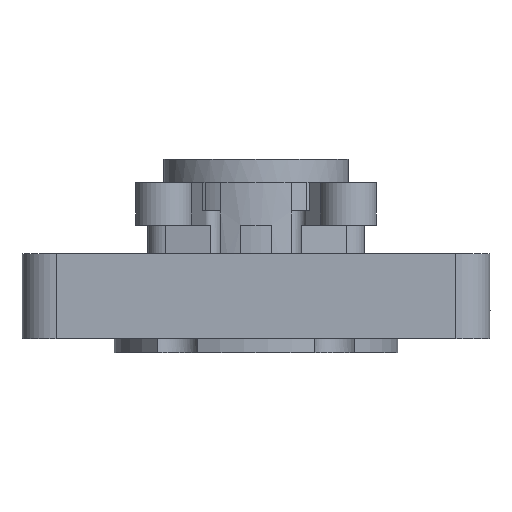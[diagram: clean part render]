
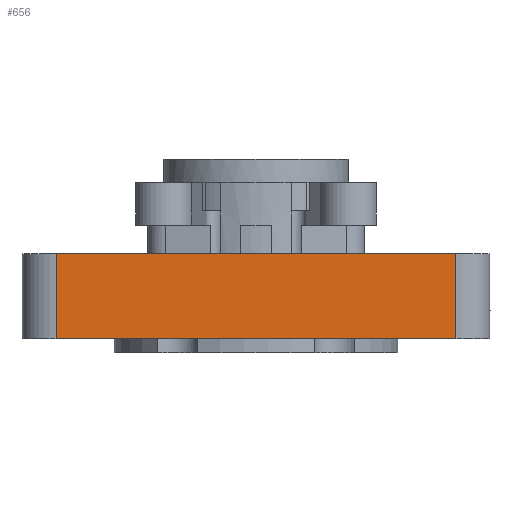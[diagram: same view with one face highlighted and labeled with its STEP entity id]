
A CAD part, front view. The second image highlights one B-rep face of the part: STEP entity #656.
In plain terms, the highlighted planar face has unit normal (0, -1, 0).
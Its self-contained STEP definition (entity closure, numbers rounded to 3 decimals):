
#656=ADVANCED_FACE('',(#991),#3473,.T.);
#991=FACE_OUTER_BOUND('',#1336,.F.);
#1336=EDGE_LOOP('',(#1801,#1802,#1803,#1804));
#1801=ORIENTED_EDGE('',*,*,#6546,.F.);
#1802=ORIENTED_EDGE('',*,*,#6792,.F.);
#1803=ORIENTED_EDGE('',*,*,#6549,.T.);
#1804=ORIENTED_EDGE('',*,*,#6791,.T.);
#3473=PLANE('',#8794);
#5646=LINE('',#11683,#6090);
#5649=LINE('',#11686,#6093);
#5735=LINE('',#11928,#6179);
#5736=LINE('',#11929,#6180);
#6090=VECTOR('',#9191,28.2);
#6093=VECTOR('',#9194,28.2);
#6179=VECTOR('',#9592,6.);
#6180=VECTOR('',#9593,6.);
#6546=EDGE_CURVE('',#8342,#8341,#5646,.T.);
#6549=EDGE_CURVE('',#8336,#8335,#5649,.T.);
#6791=EDGE_CURVE('',#8335,#8341,#5735,.T.);
#6792=EDGE_CURVE('',#8336,#8342,#5736,.T.);
#8335=VERTEX_POINT('',#11640);
#8336=VERTEX_POINT('',#11641);
#8341=VERTEX_POINT('',#11646);
#8342=VERTEX_POINT('',#11647);
#8794=AXIS2_PLACEMENT_3D('',#12550,#10379,#10380);
#9191=DIRECTION('',(-1.,0.,0.));
#9194=DIRECTION('',(-1.,0.,0.));
#9592=DIRECTION('',(0.,0.,1.));
#9593=DIRECTION('',(0.,0.,1.));
#10379=DIRECTION('',(0.,-1.,0.));
#10380=DIRECTION('',(-1.,0.,0.));
#11640=CARTESIAN_POINT('',(184.751,1.05,276.775));
#11641=CARTESIAN_POINT('',(212.951,1.05,276.775));
#11646=CARTESIAN_POINT('',(184.751,1.05,282.775));
#11647=CARTESIAN_POINT('',(212.951,1.05,282.775));
#11683=CARTESIAN_POINT('',(212.951,1.05,282.775));
#11686=CARTESIAN_POINT('',(212.951,1.05,276.775));
#11928=CARTESIAN_POINT('',(184.751,1.05,276.775));
#11929=CARTESIAN_POINT('',(212.951,1.05,276.775));
#12550=CARTESIAN_POINT('',(215.681,1.05,283.105));
